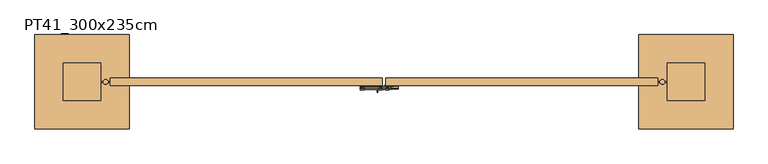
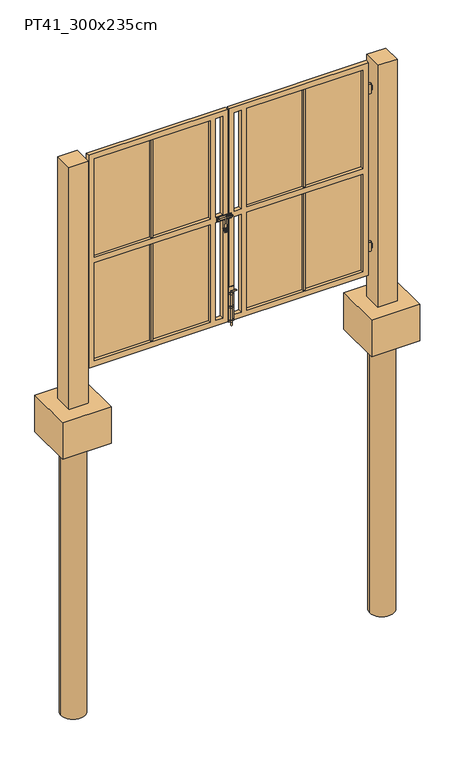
"""IFC4 building model written with IfcOpenShell, lengths in millimetres: door geometry, FDE_PT41_Portão_UsoExterno_ChapaDeAço_2Folhas : PT41_300x235cm."""

from ifc_helpers import new_model, si_unit, point, frame, frame_2d, origin, place, context, project, spatial, polyline, circle_curve, ellipse_curve, trimmed, segment, composite_curve, outline, extrude, source, transform, mapped, element, save
from ifc_brep_helpers import plane_surface, cylinder_surface, revolved_surface, advanced_brep


def pt41_300x235cm_02f68b07(model_context):
    return source(origin(), model_context, "Body", "SolidModel", [
        extrude(outline(composite_curve([segment(polyline([(18.65, -25.0), (18.65, -31.25)]), True, "CONTINUOUS"), segment(trimmed(circle_curve(frame_2d((25.0, -31.25)), 6.35), [point((18.65, -31.25))], [point((31.3345317, -31.6929536))], True, "CARTESIAN"), True, "CONTINUOUS"), segment(polyline([(31.3345317, -31.6929536), (31.3345317, -25.0), (50.0, -25.0), (50.0, -27.0), (33.3382427, -27.0), (33.3382427, -31.6929536)]), True, "CONTINUOUS"), segment(trimmed(circle_curve(frame_2d((25.0, -31.25)), 8.35), [point((33.3382427, -31.6929536))], [point((16.65, -31.25))], False, "CARTESIAN"), True, "CONTINUOUS"), segment(polyline([(16.65, -31.25), (16.65, -27.0), (0.0, -27.0), (0.0, -25.0), (18.65, -25.0)]), True, "CONTINUOUS")], self_intersect=False)), frame((0.0, 0.0, 320.0), z_axis=(0.0, 0.0, 1.0), x_axis=(1.0, 0.0, 0.0)), (0.0, 0.0, 1.0), 20.0),
        extrude(outline(composite_curve([segment(polyline([(18.65, -25.0), (18.65, -31.25)]), True, "CONTINUOUS"), segment(trimmed(circle_curve(frame_2d((25.0, -31.25)), 6.35), [point((18.65, -31.25))], [point((31.3345317, -31.6929536))], True, "CARTESIAN"), True, "CONTINUOUS"), segment(polyline([(31.3345317, -31.6929536), (31.3345317, -25.0), (50.0, -25.0), (50.0, -27.0), (33.3382427, -27.0), (33.3382427, -31.6929536)]), True, "CONTINUOUS"), segment(trimmed(circle_curve(frame_2d((25.0, -31.25)), 8.35), [point((33.3382427, -31.6929536))], [point((16.65, -31.25))], False, "CARTESIAN"), True, "CONTINUOUS"), segment(polyline([(16.65, -31.25), (16.65, -27.0), (0.0, -27.0), (0.0, -25.0), (18.65, -25.0)]), True, "CONTINUOUS")], self_intersect=False)), frame((0.0, 0.0, 170.0), z_axis=(0.0, 0.0, 1.0), x_axis=(1.0, 0.0, 0.0)), (0.0, 0.0, 1.0), 20.0),
        extrude(outline(composite_curve([segment(polyline([(18.65, -25.0), (18.65, -31.25)]), True, "CONTINUOUS"), segment(trimmed(circle_curve(frame_2d((25.0, -31.25)), 6.35), [point((18.65, -31.25))], [point((31.3345317, -31.6929536))], True, "CARTESIAN"), True, "CONTINUOUS"), segment(polyline([(31.3345317, -31.6929536), (31.3345317, -25.0), (50.0, -25.0), (50.0, -27.0), (33.3382427, -27.0), (33.3382427, -31.6929536)]), True, "CONTINUOUS"), segment(trimmed(circle_curve(frame_2d((25.0, -31.25)), 8.35), [point((33.3382427, -31.6929536))], [point((16.65, -31.25))], False, "CARTESIAN"), True, "CONTINUOUS"), segment(polyline([(16.65, -31.25), (16.65, -27.0), (0.0, -27.0), (0.0, -25.0), (18.65, -25.0)]), True, "CONTINUOUS")], self_intersect=False)), frame((0.0, 0.0, 20.0), z_axis=(0.0, 0.0, 1.0), x_axis=(1.0, 0.0, 0.0)), (0.0, 0.0, 1.0), 20.0),
        advanced_brep(
        [(18.65, -31.25, -20.0), (31.35, -31.25, -20.0), (18.65, -31.25, 356.35), (31.35, -31.25, 343.65), (75.0, -31.25, 356.35), (75.0, -31.25, 343.65)],
        [
            (0, 1, circle_curve(frame((25.0, -31.25, -20.0), z_axis=(0.0, 0.0, -1.0), x_axis=(1.0, 0.0, 0.0)), 6.35)),
            (1, 0, circle_curve(frame((25.0, -31.25, -20.0), z_axis=(0.0, 0.0, -1.0), x_axis=(1.0, 0.0, 0.0)), 6.35)),
            (0, 2),
            (2, 3, ellipse_curve(frame((25.0, -31.25, 350.0), z_axis=(-0.707106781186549, 0.0, -0.7071067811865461), x_axis=(0.7071067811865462, 0.0, -0.7071067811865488)), 8.9802561, 6.35)),
            (3, 1),
            (3, 2, ellipse_curve(frame((25.0, -31.25, 350.0), z_axis=(-0.707106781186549, 0.0, -0.7071067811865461), x_axis=(0.7071067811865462, 0.0, -0.7071067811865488)), 8.9802561, 6.35)),
            (4, 5, circle_curve(frame((75.0, -31.25, 350.0), z_axis=(1.0, 0.0, 0.0), x_axis=(0.0, 0.0, -1.0)), 6.35)),
            (5, 4, circle_curve(frame((75.0, -31.25, 350.0), z_axis=(1.0, 0.0, 0.0), x_axis=(0.0, 0.0, -1.0)), 6.35)),
            (2, 4),
            (5, 3),
        ],
        [
            plane_surface(frame((25.0, -31.25, -20.0), z_axis=(0.0, 0.0, -1.0), x_axis=(0.0, -1.0, 0.0))),
            cylinder_surface(frame((25.0, -31.25, -20.0), z_axis=(0.0, 0.0, -1.0), x_axis=(1.0, 0.0, 0.0)), 6.35),
            plane_surface(frame((75.0, -31.25, 350.0), z_axis=(1.0, 0.0, 0.0), x_axis=(0.0, -1.0, 0.0))),
            cylinder_surface(frame((25.0, -31.25, 350.0), z_axis=(-1.0, 0.0, 0.0), x_axis=(0.0, 0.0, -1.0)), 6.35),
        ],
        [
            (0, [[1, 2]]),
            (1, [[-1, 3, 4, 5]]),
            (1, [[-2, -5, 6, -3]]),
            (2, [[7, 8]]),
            (3, [[-4, 9, -8, 10]]),
            (3, [[-6, -10, -7, -9]]),
        ],
    ),
        extrude(outline(polyline([(50.0, -25.0), (0.0, -25.0), (0.0, -20.0), (50.0, -20.0), (50.0, -25.0)])), frame((0.0, 0.0, 20.0), z_axis=(0.0, 0.0, 1.0), x_axis=(1.0, 0.0, 0.0)), (0.0, 0.0, 1.0), 380.0),
        extrude(outline(polyline([(2075.0, 1477.5), (2095.0, 1477.5), (2095.0, 1450.0), (2075.0, 1450.0), (2075.0, 1472.5), (2025.0, 1472.5), (2025.0, 1450.0), (2005.0, 1450.0), (2005.0, 1477.5), (2025.0, 1477.5), (2025.0, 1500.0), (2075.0, 1500.0), (2075.0, 1477.5)])), frame((0.0, -2.5, 0.0), z_axis=(0.0, 1.0, 0.0), x_axis=(0.0, 0.0, 1.0)), (0.0, 0.0, 1.0), 5.0),
        extrude(outline(composite_curve([segment(trimmed(circle_curve(frame_2d((1475.0, 0.0)), 12.7), [point((1487.7, 0.0))], [point((1462.3, 0.0))], False, "CARTESIAN"), True, "CONTINUOUS"), segment(trimmed(circle_curve(frame_2d((1475.0, 0.0)), 12.7), [point((1462.3, 0.0))], [point((1487.7, 0.0))], False, "CARTESIAN"), True, "CONTINUOUS")], self_intersect=False)), frame((0.0, 0.0, 1999.2), z_axis=(0.0, 0.0, 1.0), x_axis=(1.0, 0.0, 0.0)), (0.0, 0.0, 1.0), 101.6),
        extrude(outline(polyline([(345.0, 1477.5), (365.0, 1477.5), (365.0, 1450.0), (345.0, 1450.0), (345.0, 1472.5), (295.0, 1472.5), (295.0, 1450.0), (275.0, 1450.0), (275.0, 1477.5), (295.0, 1477.5), (295.0, 1500.0), (345.0, 1500.0), (345.0, 1477.5)])), frame((0.0, -2.5, 0.0), z_axis=(0.0, 1.0, 0.0), x_axis=(0.0, 0.0, 1.0)), (0.0, 0.0, 1.0), 5.0),
        extrude(outline(composite_curve([segment(trimmed(circle_curve(frame_2d((1475.0, 0.0)), 12.7), [point((1487.7, 0.0))], [point((1462.3, 0.0))], False, "CARTESIAN"), True, "CONTINUOUS"), segment(trimmed(circle_curve(frame_2d((1475.0, 0.0)), 12.7), [point((1462.3, 0.0))], [point((1487.7, 0.0))], False, "CARTESIAN"), True, "CONTINUOUS")], self_intersect=False)), frame((0.0, 0.0, 269.2), z_axis=(0.0, 0.0, 1.0), x_axis=(1.0, 0.0, 0.0)), (0.0, 0.0, 1.0), 101.6),
        extrude(outline(polyline([(2075.0, -1477.5), (2075.0, -1500.0), (2025.0, -1500.0), (2025.0, -1477.5), (2005.0, -1477.5), (2005.0, -1450.0), (2025.0, -1450.0), (2025.0, -1472.5), (2075.0, -1472.5), (2075.0, -1450.0), (2095.0, -1450.0), (2095.0, -1477.5), (2075.0, -1477.5)])), frame((0.0, -2.5, 0.0), z_axis=(0.0, 1.0, 0.0), x_axis=(0.0, 0.0, 1.0)), (0.0, 0.0, 1.0), 5.0),
        extrude(outline(composite_curve([segment(trimmed(circle_curve(frame_2d((-1475.0, 0.0)), 12.7), [point((-1487.7, 0.0))], [point((-1462.3, 0.0))], False, "CARTESIAN"), True, "CONTINUOUS"), segment(trimmed(circle_curve(frame_2d((-1475.0, 0.0)), 12.7), [point((-1462.3, 0.0))], [point((-1487.7, 0.0))], False, "CARTESIAN"), True, "CONTINUOUS")], self_intersect=False)), frame((0.0, 0.0, 1999.2), z_axis=(0.0, 0.0, 1.0), x_axis=(1.0, 0.0, 0.0)), (0.0, 0.0, 1.0), 101.6),
        extrude(outline(polyline([(345.0, -1477.5), (345.0, -1500.0), (295.0, -1500.0), (295.0, -1477.5), (275.0, -1477.5), (275.0, -1450.0), (295.0, -1450.0), (295.0, -1472.5), (345.0, -1472.5), (345.0, -1450.0), (365.0, -1450.0), (365.0, -1477.5), (345.0, -1477.5)])), frame((0.0, -2.5, 0.0), z_axis=(0.0, 1.0, 0.0), x_axis=(0.0, 0.0, 1.0)), (0.0, 0.0, 1.0), 5.0),
        extrude(outline(composite_curve([segment(trimmed(circle_curve(frame_2d((-1475.0, 0.0)), 12.7), [point((-1487.7, 0.0))], [point((-1462.3, 0.0))], False, "CARTESIAN"), True, "CONTINUOUS"), segment(trimmed(circle_curve(frame_2d((-1475.0, 0.0)), 12.7), [point((-1462.3, 0.0))], [point((-1487.7, 0.0))], False, "CARTESIAN"), True, "CONTINUOUS")], self_intersect=False)), frame((0.0, 0.0, 269.2), z_axis=(0.0, 0.0, 1.0), x_axis=(1.0, 0.0, 0.0)), (0.0, 0.0, 1.0), 101.6),
        advanced_brep(
        [(10.0, -34.7972177, 1174.1828756), (10.0, -24.0, 1174.1828756), (10.0, -24.0, 1155.0), (10.0, -26.0, 1155.0), (10.0, -26.0, 1172.1828756), (10.0, -34.7972177, 1172.1828756), (10.0, -34.7972177, 1188.8828756), (10.0, -26.0, 1188.8931626), (10.0, -26.0, 1205.0), (10.0, -24.0, 1205.0), (10.0, -24.0, 1186.8931626), (10.0, -34.8015861, 1186.8931626), (25.0, -34.7994019, 1174.193163), (25.0, -34.8015861, 1186.8931626), (25.0, -24.0, 1186.8931626), (25.0, -24.0, 1205.0), (25.0, -26.0, 1205.0), (25.0, -26.0, 1188.8931626), (25.0, -34.7972177, 1188.8931626), (25.0, -34.7972177, 1172.1828756), (25.0, -26.0, 1172.1828756), (25.0, -26.0, 1155.0), (25.0, -24.0, 1155.0), (25.0, -24.0, 1174.1828756)],
        [
            (0, 1),
            (1, 2),
            (2, 3),
            (3, 4),
            (4, 5),
            (5, 6, circle_curve(frame((10.0, -34.7972177, 1180.5328756), z_axis=(-1.0, 0.0, 0.0), x_axis=(0.0, 0.0, -1.0)), 8.35)),
            (6, 7),
            (7, 8),
            (8, 9),
            (9, 10),
            (10, 11),
            (11, 0, circle_curve(frame((10.0, -34.7994019, 1180.543163), z_axis=(1.0, 0.0, 0.0), x_axis=(0.0, 0.0, -1.0)), 6.35)),
            (12, 13, circle_curve(frame((25.0, -34.7994019, 1180.543163), z_axis=(-1.0, 0.0, 0.0), x_axis=(0.0, 0.0, -1.0)), 6.35)),
            (13, 14),
            (14, 15),
            (15, 16),
            (16, 17),
            (17, 18),
            (18, 19, circle_curve(frame((25.0, -34.7972177, 1180.5328756), z_axis=(1.0, 0.0, 0.0), x_axis=(0.0, 0.0, -1.0)), 8.35)),
            (19, 20),
            (20, 21),
            (21, 22),
            (22, 23),
            (23, 12),
            (12, 0),
            (11, 13),
            (10, 14),
            (9, 15),
            (8, 16),
            (7, 17),
            (6, 18),
            (5, 19),
            (4, 20),
            (3, 21),
            (2, 22),
            (1, 23),
        ],
        [
            plane_surface(frame((10.0, -34.7994019, 1174.193163), z_axis=(-1.0, 0.0, 0.0), x_axis=(0.0, 1.0, 0.0))),
            plane_surface(frame((25.0, -34.7994019, 1174.193163), z_axis=(1.0, 0.0, 0.0), x_axis=(0.0, -1.0, 0.0))),
            revolved_surface(polyline([(10.0, -34.7994019, 1174.1931630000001), (25.0, -34.7994019, 1174.1931630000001)]), (10.0, -34.7994019, 1180.543163), (-1.0, 0.0, 0.0)),
            plane_surface(frame((25.0, -34.8015861, 1186.8931626), z_axis=(0.0, 0.0, -1.0), x_axis=(-1.0, 0.0, 0.0))),
            plane_surface(frame((25.0, -24.0, 1186.8931626), z_axis=(0.0, 1.0, 0.0), x_axis=(-1.0, 0.0, 0.0))),
            plane_surface(frame((25.0, -24.0, 1205.0), z_axis=(0.0, 0.0, 1.0), x_axis=(-1.0, 0.0, 0.0))),
            plane_surface(frame((25.0, -26.0, 1205.0), z_axis=(0.0, -1.0, 0.0), x_axis=(-1.0, 0.0, 0.0))),
            plane_surface(frame((25.0, -26.0, 1188.8931626), z_axis=(0.0, 0.0, 1.0), x_axis=(-1.0, 0.0, 0.0))),
            cylinder_surface(frame((10.0, -34.7972177, 1180.5328756), z_axis=(1.0, 0.0, 0.0), x_axis=(0.0, 0.0, -1.0)), 8.35),
            plane_surface(frame((25.0, -34.7972177, 1172.1828756), z_axis=(0.0, 0.0, -1.0), x_axis=(-1.0, 0.0, 0.0))),
            plane_surface(frame((25.0, -26.0, 1172.1828756), z_axis=(0.0, -1.0, 0.0), x_axis=(-1.0, 0.0, 0.0))),
            plane_surface(frame((25.0, -26.0, 1155.0), z_axis=(0.0, 0.0, -1.0), x_axis=(-1.0, 0.0, 0.0))),
            plane_surface(frame((25.0, -24.0, 1155.0), z_axis=(0.0, 1.0, 0.0), x_axis=(-1.0, 0.0, 0.0))),
            plane_surface(frame((25.0, -24.0, 1174.1828756), z_axis=(0.0, 0.0, 1.0), x_axis=(-1.0, 0.0, 0.0))),
        ],
        [
            (0, [[1, 2, 3, 4, 5, 6, 7, 8, 9, 10, 11, 12]]),
            (1, [[13, 14, 15, 16, 17, 18, 19, 20, 21, 22, 23, 24]]),
            (2, [[-13, 25, -12, 26]]),
            (3, [[-14, -26, -11, 27]]),
            (4, [[-15, -27, -10, 28]]),
            (5, [[-16, -28, -9, 29]]),
            (6, [[-17, -29, -8, 30]]),
            (7, [[-18, -30, -7, 31]]),
            (8, [[-19, -31, -6, 32]]),
            (9, [[-20, -32, -5, 33]]),
            (10, [[-21, -33, -4, 34]]),
            (11, [[-22, -34, -3, 35]]),
            (12, [[-23, -35, -2, 36]]),
            (13, [[-24, -36, -1, -25]]),
        ],
    ),
        advanced_brep(
        [(-40.0, -32.8935961, 1171.339746), (-40.0, -32.8935961, 1117.8785853), (-46.1056497, -32.8935961, 1104.7849773), (-46.1056497, -32.8935961, 1017.9855504), (-23.8943503, -32.8935961, 1017.9855504), (-23.8943503, -32.8935961, 1104.7849773), (-30.0, -32.8935961, 1117.8785853), (-30.0, -32.8935961, 1171.339746), (-31.8164344, -32.8935961, 1174.4859025), (-38.1835656, -32.8935961, 1174.4859025), (-28.8943503, -32.8935961, 1067.3525354), (-28.8943503, -32.8935961, 1032.1450732), (-41.1056497, -32.8935961, 1032.1450732), (-41.1056497, -32.8935961, 1067.3525354), (-30.0, -31.380621, 1171.339746), (-30.0, -31.380621, 1117.8785853), (-23.8943503, -31.380621, 1104.7849773), (-23.8943503, -31.380621, 1017.9855504), (-46.1056497, -31.380621, 1017.9855504), (-46.1056497, -31.380621, 1104.7849773), (-40.0, -31.380621, 1117.8785853), (-40.0, -31.380621, 1171.339746), (-37.7758726, -31.380621, 1175.1920475), (-32.2241274, -31.380621, 1175.1920475), (-28.8943503, -31.380621, 1067.3525354), (-41.1056497, -31.380621, 1067.3525354), (-41.1056497, -31.380621, 1032.1450732), (-28.8943503, -31.380621, 1032.1450732), (34.8207606, -34.7994019, 1186.893163), (34.8207606, -34.7994019, 1174.193163), (-125.0, -34.7994019, 1186.893163), (-125.0, -34.7994019, 1174.193163)],
        [
            (0, 1),
            (1, 2),
            (2, 3),
            (3, 4),
            (4, 5),
            (5, 6),
            (6, 7),
            (7, 8),
            (8, 9),
            (9, 0),
            (10, 11),
            (11, 12),
            (12, 13),
            (13, 10),
            (14, 15),
            (15, 16),
            (16, 17),
            (17, 18),
            (18, 19),
            (19, 20),
            (20, 21),
            (21, 22),
            (22, 23),
            (23, 14),
            (24, 25),
            (25, 26),
            (26, 27),
            (27, 24),
            (0, 21),
            (20, 1),
            (19, 2),
            (18, 3),
            (17, 4),
            (16, 5),
            (15, 6),
            (14, 7),
            (10, 24),
            (27, 11),
            (26, 12),
            (25, 13),
            (28, 29, circle_curve(frame((34.8207606, -34.7994019, 1180.543163), z_axis=(1.0, 0.0, 0.0), x_axis=(0.0, 0.0, -1.0)), 6.35)),
            (29, 28, circle_curve(frame((34.8207606, -34.7994019, 1180.543163), z_axis=(1.0, 0.0, 0.0), x_axis=(0.0, 0.0, -1.0)), 6.35)),
            (30, 31, circle_curve(frame((-125.0, -34.7994019, 1180.543163), z_axis=(-1.0, 0.0, 0.0), x_axis=(0.0, 0.0, -1.0)), 6.35)),
            (31, 30, circle_curve(frame((-125.0, -34.7994019, 1180.543163), z_axis=(-1.0, 0.0, 0.0), x_axis=(0.0, 0.0, -1.0)), 6.35)),
            (28, 30),
            (31, 29),
            (8, 23, ellipse_curve(frame((-35.3135953, -34.7994019, 1180.543163), z_axis=(0.8660254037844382, 0.0, 0.5000000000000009), x_axis=(0.5000000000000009, 0.0, -0.8660254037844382)), 7.3323484, 6.35)),
            (22, 9, ellipse_curve(frame((-34.6864047, -34.7994019, 1180.543163), z_axis=(-0.8660254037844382, 0.0, 0.500000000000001), x_axis=(0.5000000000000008, 0.0, 0.8660254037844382)), 7.3323484, 6.35)),
        ],
        [
            plane_surface(frame((-40.0, -32.8935961, 1175.0), z_axis=(0.0, -1.0, 0.0), x_axis=(0.0, 0.0, -1.0))),
            plane_surface(frame((-40.0, -31.380621, 1175.0), z_axis=(0.0, 1.0, 0.0), x_axis=(0.0, 0.0, 1.0))),
            plane_surface(frame((-40.0, -32.8935961, 1171.339746), z_axis=(-1.0, 0.0, 0.0), x_axis=(0.0, 1.0, 0.0))),
            plane_surface(frame((-40.0, -32.8935961, 1117.8785853), z_axis=(-0.9063077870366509, 0.0, 0.4226182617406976), x_axis=(0.0, 1.0, 0.0))),
            plane_surface(frame((-46.1056497, -32.8935961, 1104.7849773), z_axis=(-1.0, 0.0, 0.0), x_axis=(0.0, 1.0, 0.0))),
            plane_surface(frame((-46.1056497, -32.8935961, 1017.9855504), z_axis=(0.0, 0.0, -1.0), x_axis=(0.0, 1.0, 0.0))),
            plane_surface(frame((-23.8943503, -32.8935961, 1017.9855504), z_axis=(1.0, 0.0, 0.0), x_axis=(0.0, 1.0, 0.0))),
            plane_surface(frame((-23.8943503, -32.8935961, 1104.7849773), z_axis=(0.9063077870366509, 0.0, 0.42261826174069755), x_axis=(0.0, 1.0, 0.0))),
            plane_surface(frame((-30.0, -32.8935961, 1117.8785853), z_axis=(1.0, 0.0, 0.0), x_axis=(0.0, 1.0, 0.0))),
            plane_surface(frame((-28.8943503, -32.8935961, 1067.3525354), z_axis=(-1.0, 0.0, 0.0), x_axis=(0.0, 1.0, 0.0))),
            plane_surface(frame((-28.8943503, -32.8935961, 1032.1450732), z_axis=(0.0, 0.0, 1.0), x_axis=(0.0, 1.0, 0.0))),
            plane_surface(frame((-41.1056497, -32.8935961, 1032.1450732), z_axis=(1.0, 0.0, 0.0), x_axis=(0.0, 1.0, 0.0))),
            plane_surface(frame((-41.1056497, -32.8935961, 1067.3525354), z_axis=(0.0, 0.0, -1.0), x_axis=(0.0, 1.0, 0.0))),
            plane_surface(frame((34.8207606, -34.7994019, 1174.193163), z_axis=(1.0, 0.0, 0.0), x_axis=(0.0, 1.0, 0.0))),
            plane_surface(frame((-125.0, -34.7994019, 1174.193163), z_axis=(-1.0, 0.0, 0.0), x_axis=(0.0, -1.0, 0.0))),
            cylinder_surface(frame((-125.0, -34.7994019, 1180.543163), z_axis=(1.0, 0.0, 0.0), x_axis=(0.0, 0.0, -1.0)), 6.35),
            plane_surface(frame((-30.0, -32.8935961, 1171.339746), z_axis=(0.8660254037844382, 0.0, 0.5000000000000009), x_axis=(0.0, 1.0, 0.0))),
            plane_surface(frame((-35.0, -32.8935961, 1180.0), z_axis=(-0.8660254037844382, 0.0, 0.500000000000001), x_axis=(0.0, 1.0, 0.0))),
        ],
        [
            (0, [[1, 2, 3, 4, 5, 6, 7, 8, 9, 10], [11, 12, 13, 14]]),
            (1, [[15, 16, 17, 18, 19, 20, 21, 22, 23, 24], [25, 26, 27, 28]]),
            (2, [[-1, 29, -21, 30]]),
            (3, [[-2, -30, -20, 31]]),
            (4, [[-3, -31, -19, 32]]),
            (5, [[-4, -32, -18, 33]]),
            (6, [[-5, -33, -17, 34]]),
            (7, [[-6, -34, -16, 35]]),
            (8, [[-7, -35, -15, 36]]),
            (9, [[-11, 37, -28, 38]]),
            (10, [[-12, -38, -27, 39]]),
            (11, [[-13, -39, -26, 40]]),
            (12, [[-14, -40, -25, -37]]),
            (13, [[41, 42]]),
            (14, [[43, 44]]),
            (15, [[-41, 45, -44, 46]]),
            (15, [[-42, -46, -43, -45], [-9, 47, -23, 48]]),
            (16, [[-36, -24, -47, -8]]),
            (17, [[-29, -10, -48, -22]]),
        ],
    ),
        extrude(outline(polyline([(-8.3641027, -24.0), (-58.3641027, -24.0), (-58.3641027, -20.0), (-8.3641027, -20.0), (-8.3641027, -24.0)])), frame((0.0, 0.0, 1035.0), z_axis=(0.0, 0.0, 1.0), x_axis=(1.0, 0.0, 0.0)), (0.0, 0.0, 1.0), 30.0),
        advanced_brep(
        [(-25.0, -34.7972177, 1172.1828756), (-25.0, -34.7972177, 1188.8828756), (-25.0, -26.0, 1188.8931626), (-25.0, -26.0, 1205.0), (-25.0, -24.0, 1205.0), (-25.0, -24.0, 1186.8931626), (-25.0, -34.8015861, 1186.8931626), (-25.0, -34.7994019, 1174.193163), (-25.0, -24.0, 1174.1828756), (-25.0, -24.0, 1155.0), (-25.0, -26.0, 1155.0), (-25.0, -26.0, 1172.1828756), (-10.0, -34.7972177, 1172.1828756), (-10.0, -26.0, 1172.1828756), (-10.0, -26.0, 1155.0), (-10.0, -24.0, 1155.0), (-10.0, -24.0, 1174.1828756), (-10.0, -34.7972177, 1174.1828756), (-10.0, -34.8015861, 1186.8931626), (-10.0, -24.0, 1186.8931626), (-10.0, -24.0, 1205.0), (-10.0, -26.0, 1205.0), (-10.0, -26.0, 1188.8931626), (-10.0, -34.7972177, 1188.8931626)],
        [
            (0, 1, circle_curve(frame((-25.0, -34.7972177, 1180.5328756), z_axis=(-1.0, 0.0, 0.0), x_axis=(0.0, 0.0, -1.0)), 8.35)),
            (1, 2),
            (2, 3),
            (3, 4),
            (4, 5),
            (5, 6),
            (6, 7, circle_curve(frame((-25.0, -34.7994019, 1180.543163), z_axis=(1.0, 0.0, 0.0), x_axis=(0.0, 0.0, -1.0)), 6.35)),
            (7, 8),
            (8, 9),
            (9, 10),
            (10, 11),
            (11, 0),
            (12, 13),
            (13, 14),
            (14, 15),
            (15, 16),
            (16, 17),
            (17, 18, circle_curve(frame((-10.0, -34.7994019, 1180.543163), z_axis=(-1.0, 0.0, 0.0), x_axis=(0.0, 0.0, -1.0)), 6.35)),
            (18, 19),
            (19, 20),
            (20, 21),
            (21, 22),
            (22, 23),
            (23, 12, circle_curve(frame((-10.0, -34.7972177, 1180.5328756), z_axis=(1.0, 0.0, 0.0), x_axis=(0.0, 0.0, -1.0)), 8.35)),
            (12, 0),
            (11, 13),
            (10, 14),
            (9, 15),
            (8, 16),
            (7, 17),
            (6, 18),
            (5, 19),
            (4, 20),
            (3, 21),
            (2, 22),
            (1, 23),
        ],
        [
            plane_surface(frame((-25.0, -34.7972177, 1172.1828756), z_axis=(-1.0, 0.0, 0.0), x_axis=(0.0, -1.0, 0.0))),
            plane_surface(frame((-10.0, -34.7972177, 1172.1828756), z_axis=(1.0, 0.0, 0.0), x_axis=(0.0, 1.0, 0.0))),
            plane_surface(frame((-10.0, -34.7972177, 1172.1828756), z_axis=(0.0, 0.0, -1.0), x_axis=(-1.0, 0.0, 0.0))),
            plane_surface(frame((-10.0, -26.0, 1172.1828756), z_axis=(0.0, -1.0, 0.0), x_axis=(-1.0, 0.0, 0.0))),
            plane_surface(frame((-10.0, -26.0, 1155.0), z_axis=(0.0, 0.0, -1.0), x_axis=(-1.0, 0.0, 0.0))),
            plane_surface(frame((-10.0, -24.0, 1155.0), z_axis=(0.0, 1.0, 0.0), x_axis=(-1.0, 0.0, 0.0))),
            plane_surface(frame((-10.0, -24.0, 1174.1828756), z_axis=(0.0, 0.0, 1.0), x_axis=(-1.0, 0.0, 0.0))),
            revolved_surface(polyline([(-25.0, -34.7994019, 1174.1931630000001), (-10.0, -34.7994019, 1174.1931630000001)]), (-25.0, -34.7994019, 1180.543163), (-1.0, 0.0, 0.0)),
            plane_surface(frame((-10.0, -34.8015861, 1186.8931626), z_axis=(0.0, 0.0, -1.0), x_axis=(-1.0, 0.0, 0.0))),
            plane_surface(frame((-10.0, -24.0, 1186.8931626), z_axis=(0.0, 1.0, 0.0), x_axis=(-1.0, 0.0, 0.0))),
            plane_surface(frame((-10.0, -24.0, 1205.0), z_axis=(0.0, 0.0, 1.0), x_axis=(-1.0, 0.0, 0.0))),
            plane_surface(frame((-10.0, -26.0, 1205.0), z_axis=(0.0, -1.0, 0.0), x_axis=(-1.0, 0.0, 0.0))),
            plane_surface(frame((-10.0, -26.0, 1188.8931626), z_axis=(0.0, 0.0, 1.0), x_axis=(-1.0, 0.0, 0.0))),
            cylinder_surface(frame((-25.0, -34.7972177, 1180.5328756), z_axis=(1.0, 0.0, 0.0), x_axis=(0.0, 0.0, -1.0)), 8.35),
        ],
        [
            (0, [[1, 2, 3, 4, 5, 6, 7, 8, 9, 10, 11, 12]]),
            (1, [[13, 14, 15, 16, 17, 18, 19, 20, 21, 22, 23, 24]]),
            (2, [[-13, 25, -12, 26]]),
            (3, [[-14, -26, -11, 27]]),
            (4, [[-15, -27, -10, 28]]),
            (5, [[-16, -28, -9, 29]]),
            (6, [[-17, -29, -8, 30]]),
            (7, [[-18, -30, -7, 31]]),
            (8, [[-19, -31, -6, 32]]),
            (9, [[-20, -32, -5, 33]]),
            (10, [[-21, -33, -4, 34]]),
            (11, [[-22, -34, -3, 35]]),
            (12, [[-23, -35, -2, 36]]),
            (13, [[-24, -36, -1, -25]]),
        ],
    ),
        advanced_brep(
        [(-125.0, -34.7972177, 1174.1828756), (-125.0, -24.0, 1174.1828756), (-125.0, -24.0, 1155.0), (-125.0, -26.0, 1155.0), (-125.0, -26.0, 1172.1828756), (-125.0, -34.7972177, 1172.1828756), (-125.0, -34.7972177, 1188.8828756), (-125.0, -26.0, 1188.8931626), (-125.0, -26.0, 1205.0), (-125.0, -24.0, 1205.0), (-125.0, -24.0, 1186.8931626), (-125.0, -34.7972177, 1186.8931626), (-105.0, -34.7972177, 1174.1828756), (-105.0, -34.7972177, 1186.8828756), (-105.0, -24.0, 1186.8931626), (-105.0, -24.0, 1205.0), (-105.0, -26.0, 1205.0), (-105.0, -26.0, 1188.8931626), (-105.0, -34.7972177, 1188.8931626), (-105.0, -34.7972177, 1172.1828756), (-105.0, -26.0, 1172.1828756), (-105.0, -26.0, 1155.0), (-105.0, -24.0, 1155.0), (-105.0, -24.0, 1174.1828756)],
        [
            (0, 1),
            (1, 2),
            (2, 3),
            (3, 4),
            (4, 5),
            (5, 6, circle_curve(frame((-125.0, -34.7972177, 1180.5328756), z_axis=(-1.0, 0.0, 0.0), x_axis=(0.0, 0.0, -1.0)), 8.35)),
            (6, 7),
            (7, 8),
            (8, 9),
            (9, 10),
            (10, 11),
            (11, 0, circle_curve(frame((-125.0, -34.7972177, 1180.5328756), z_axis=(1.0, 0.0, 0.0), x_axis=(0.0, 0.0, -1.0)), 6.35)),
            (12, 13, circle_curve(frame((-105.0, -34.7972177, 1180.5328756), z_axis=(-1.0, 0.0, 0.0), x_axis=(0.0, 0.0, -1.0)), 6.35)),
            (13, 14),
            (14, 15),
            (15, 16),
            (16, 17),
            (17, 18),
            (18, 19, circle_curve(frame((-105.0, -34.7972177, 1180.5328756), z_axis=(1.0, 0.0, 0.0), x_axis=(0.0, 0.0, -1.0)), 8.35)),
            (19, 20),
            (20, 21),
            (21, 22),
            (22, 23),
            (23, 12),
            (12, 0),
            (11, 13),
            (15, 9),
            (8, 16),
            (7, 17),
            (20, 4),
            (3, 21),
            (2, 22),
            (10, 14),
            (6, 18),
            (5, 19),
            (1, 23),
        ],
        [
            plane_surface(frame((-125.0, -34.7972177, 1174.1828756), z_axis=(-1.0, 0.0, 0.0), x_axis=(0.0, 1.0, 0.0))),
            plane_surface(frame((-105.0, -34.7972177, 1174.1828756), z_axis=(1.0, 0.0, 0.0), x_axis=(0.0, -1.0, 0.0))),
            revolved_surface(polyline([(-125.0, -34.7972177, 1174.1828756), (-105.0, -34.7972177, 1174.1828756)]), (-125.0, -34.7972177, 1180.5328756), (-1.0, 0.0, 0.0)),
            plane_surface(frame((-105.0, -24.0, 1205.0), z_axis=(0.0, 0.0, 1.0), x_axis=(-1.0, 0.0, 0.0))),
            plane_surface(frame((-105.0, -26.0, 1205.0), z_axis=(0.0, -1.0, 0.0), x_axis=(-1.0, 0.0, 0.0))),
            plane_surface(frame((-105.0, -26.0, 1172.1828756), z_axis=(0.0, -1.0, 0.0), x_axis=(-1.0, 0.0, 0.0))),
            plane_surface(frame((-105.0, -26.0, 1155.0), z_axis=(0.0, 0.0, -1.0), x_axis=(-1.0, 0.0, 0.0))),
            plane_surface(frame((-105.0, -34.7972177, 1186.8931626), z_axis=(0.0, 0.0, -1.0), x_axis=(-1.0, 0.0, 0.0))),
            plane_surface(frame((-105.0, -24.0, 1186.8931626), z_axis=(0.0, 1.0, 0.0), x_axis=(-1.0, 0.0, 0.0))),
            plane_surface(frame((-105.0, -26.0, 1188.8931626), z_axis=(0.0, 0.0, 1.0), x_axis=(-1.0, 0.0, 0.0))),
            cylinder_surface(frame((-125.0, -34.7972177, 1180.5328756), z_axis=(1.0, 0.0, 0.0), x_axis=(0.0, 0.0, -1.0)), 8.35),
            plane_surface(frame((-105.0, -34.7972177, 1172.1828756), z_axis=(0.0, 0.0, -1.0), x_axis=(-1.0, 0.0, 0.0))),
            plane_surface(frame((-105.0, -24.0, 1155.0), z_axis=(0.0, 1.0, 0.0), x_axis=(-1.0, 0.0, 0.0))),
            plane_surface(frame((-105.0, -24.0, 1174.1828756), z_axis=(0.0, 0.0, 1.0), x_axis=(-1.0, 0.0, 0.0))),
        ],
        [
            (0, [[1, 2, 3, 4, 5, 6, 7, 8, 9, 10, 11, 12]]),
            (1, [[13, 14, 15, 16, 17, 18, 19, 20, 21, 22, 23, 24]]),
            (2, [[-13, 25, -12, 26]]),
            (3, [[-16, 27, -9, 28]]),
            (4, [[-17, -28, -8, 29]]),
            (5, [[-21, 30, -4, 31]]),
            (6, [[-22, -31, -3, 32]]),
            (7, [[-14, -26, -11, 33]]),
            (8, [[-15, -33, -10, -27]]),
            (9, [[-18, -29, -7, 34]]),
            (10, [[-19, -34, -6, 35]]),
            (11, [[-20, -35, -5, -30]]),
            (12, [[-23, -32, -2, 36]]),
            (13, [[-24, -36, -1, -25]]),
        ],
    ),
        extrude(outline(polyline([(-10.0, -24.0), (-125.0, -24.0), (-125.0, -20.0), (-10.0, -20.0), (-10.0, -24.0)])), frame((0.0, 0.0, 1155.0), z_axis=(0.0, 0.0, 1.0), x_axis=(1.0, 0.0, 0.0)), (0.0, 0.0, 1.0), 50.0),
        extrude(outline(polyline([(-55.6666689, 1036.4597108), (-55.6666689, 1063.7609972), (-24.0, 1063.7609972), (-24.0, 1036.4597108), (-55.6666689, 1036.4597108)]), holes=[composite_curve([segment(trimmed(circle_curve(frame_2d((-43.2209778, 1050.4403392)), 9.0), [point((-43.2209778, 1059.4403392))], [point((-43.2209778, 1041.4403392))], True, "CARTESIAN"), True, "CONTINUOUS"), segment(trimmed(circle_curve(frame_2d((-43.2209778, 1050.4403392)), 9.0), [point((-43.2209778, 1041.4403392))], [point((-43.2209778, 1059.4403392))], True, "CARTESIAN"), True, "CONTINUOUS")], self_intersect=False)]), frame((-36.6056497, 0.0, 0.0), z_axis=(1.0, 0.0, 0.0), x_axis=(0.0, 1.0, 0.0)), (0.0, 0.0, 1.0), 3.2112994),
        extrude(outline(polyline([(-1500.0, 100.0), (-1500.0, -100.0), (-1700.0, -100.0), (-1700.0, 100.0), (-1500.0, 100.0)])), frame((0.0, 0.0, -300.0), z_axis=(0.0, 0.0, 1.0), x_axis=(1.0, 0.0, 0.0)), (0.0, 0.0, 1.0), 2650.0),
        extrude(outline(polyline([(1700.0, 100.0), (1700.0, -100.0), (1500.0, -100.0), (1500.0, 100.0), (1700.0, 100.0)])), frame((0.0, 0.0, -300.0), z_axis=(0.0, 0.0, 1.0), x_axis=(1.0, 0.0, 0.0)), (0.0, 0.0, 1.0), 2650.0),
        extrude(outline(polyline([(800.0, -10.0), (780.0, -10.0), (780.0, 10.0), (800.0, 10.0), (800.0, -10.0)])), frame((0.0, 0.0, 80.0), z_axis=(0.0, 0.0, 1.0), x_axis=(1.0, 0.0, 0.0)), (0.0, 0.0, 1.0), 1070.0),
        extrude(outline(polyline([(800.0, -10.0), (780.0, -10.0), (780.0, 10.0), (800.0, 10.0), (800.0, -10.0)])), frame((0.0, 0.0, 1210.0), z_axis=(0.0, 0.0, 1.0), x_axis=(1.0, 0.0, 0.0)), (0.0, 0.0, 1.0), 1080.0),
        extrude(outline(polyline([(2350.0, 8.0), (20.0, 8.0), (20.0, 1450.0), (2350.0, 1450.0), (2350.0, 8.0)]), holes=[polyline([(1210.0, 60.0), (2290.0, 60.0), (2290.0, 130.0), (1210.0, 130.0), (1210.0, 60.0)]), polyline([(80.0, 130.0), (80.0, 60.0), (1150.0, 60.0), (1150.0, 130.0), (80.0, 130.0)]), polyline([(1150.0, 1390.0), (80.0, 1390.0), (80.0, 190.0), (1150.0, 190.0), (1150.0, 1390.0)]), polyline([(2290.0, 190.0), (2290.0, 1390.0), (1210.0, 1390.0), (1210.0, 190.0), (2290.0, 190.0)])]), frame((0.0, -20.0, 0.0), z_axis=(0.0, 1.0, 0.0), x_axis=(0.0, 0.0, 1.0)), (0.0, 0.0, 1.0), 40.0),
        extrude(outline(polyline([(-780.0, -10.0), (-800.0, -10.0), (-800.0, 10.0), (-780.0, 10.0), (-780.0, -10.0)])), frame((0.0, 0.0, 80.0), z_axis=(0.0, 0.0, 1.0), x_axis=(1.0, 0.0, 0.0)), (0.0, 0.0, 1.0), 1070.0),
        extrude(outline(polyline([(-780.0, -10.0), (-800.0, -10.0), (-800.0, 10.0), (-780.0, 10.0), (-780.0, -10.0)])), frame((0.0, 0.0, 1210.0), z_axis=(0.0, 0.0, 1.0), x_axis=(1.0, 0.0, 0.0)), (0.0, 0.0, 1.0), 1080.0),
        extrude(outline(polyline([(2350.0, -8.0), (2350.0, -1450.0), (20.0, -1450.0), (20.0, -8.0), (2350.0, -8.0)]), holes=[polyline([(2290.0, -190.0), (1210.0, -190.0), (1210.0, -1390.0), (2290.0, -1390.0), (2290.0, -190.0)]), polyline([(1150.0, -1390.0), (1150.0, -190.0), (80.0, -190.0), (80.0, -1390.0), (1150.0, -1390.0)]), polyline([(1210.0, -60.0), (1210.0, -130.0), (2290.0, -130.0), (2290.0, -60.0), (1210.0, -60.0)]), polyline([(80.0, -130.0), (1150.0, -130.0), (1150.0, -60.0), (80.0, -60.0), (80.0, -130.0)])]), frame((0.0, -20.0, 0.0), z_axis=(0.0, 1.0, 0.0), x_axis=(0.0, 0.0, 1.0)), (0.0, 0.0, 1.0), 40.0),
        extrude(outline(polyline([(-1350.0, 250.0), (-1350.0, -250.0), (-1850.0, -250.0), (-1850.0, 250.0), (-1350.0, 250.0)])), frame((0.0, 0.0, -700.0), z_axis=(0.0, 0.0, 1.0), x_axis=(1.0, 0.0, 0.0)), (0.0, 0.0, 1.0), 400.0),
        extrude(outline(polyline([(1850.0, 250.0), (1850.0, -250.0), (1350.0, -250.0), (1350.0, 250.0), (1850.0, 250.0)])), frame((0.0, 0.0, -700.0), z_axis=(0.0, 0.0, 1.0), x_axis=(1.0, 0.0, 0.0)), (0.0, 0.0, 1.0), 400.0),
        extrude(outline(composite_curve([segment(trimmed(circle_curve(frame_2d((1600.0, 0.0)), 125.0), [point((1475.0, 0.0))], [point((1725.0, 0.0))], False, "CARTESIAN"), True, "CONTINUOUS"), segment(trimmed(circle_curve(frame_2d((1600.0, 0.0)), 125.0), [point((1725.0, 0.0))], [point((1475.0, 0.0))], False, "CARTESIAN"), True, "CONTINUOUS")], self_intersect=False)), frame((0.0, 0.0, -3700.0), z_axis=(0.0, 0.0, 1.0), x_axis=(1.0, 0.0, 0.0)), (0.0, 0.0, 1.0), 3000.0),
        extrude(outline(composite_curve([segment(trimmed(circle_curve(frame_2d((-1600.0, 0.0)), 125.0), [point((-1725.0, 0.0))], [point((-1475.0, 0.0))], False, "CARTESIAN"), True, "CONTINUOUS"), segment(trimmed(circle_curve(frame_2d((-1600.0, 0.0)), 125.0), [point((-1475.0, 0.0))], [point((-1725.0, 0.0))], False, "CARTESIAN"), True, "CONTINUOUS")], self_intersect=False)), frame((0.0, 0.0, -3700.0), z_axis=(0.0, 0.0, 1.0), x_axis=(1.0, 0.0, 0.0)), (0.0, 0.0, 1.0), 3000.0),
        extrude(outline(polyline([(1390.0, 10.0), (190.0, 10.0), (190.0, 20.0), (1390.0, 20.0), (1390.0, 10.0)])), frame((0.0, 0.0, 1210.0), z_axis=(0.0, 0.0, 1.0), x_axis=(1.0, 0.0, 0.0)), (0.0, 0.0, 1.0), 1080.0),
        extrude(outline(polyline([(1390.0, 10.0), (190.0, 10.0), (190.0, 20.0), (1390.0, 20.0), (1390.0, 10.0)])), frame((0.0, 0.0, 80.0), z_axis=(0.0, 0.0, 1.0), x_axis=(1.0, 0.0, 0.0)), (0.0, 0.0, 1.0), 1070.0),
        extrude(outline(polyline([(-190.0, 10.0), (-1390.0, 10.0), (-1390.0, 20.0), (-190.0, 20.0), (-190.0, 10.0)])), frame((0.0, 0.0, 1210.0), z_axis=(0.0, 0.0, 1.0), x_axis=(1.0, 0.0, 0.0)), (0.0, 0.0, 1.0), 1080.0),
        extrude(outline(polyline([(-190.0, 10.0), (-1390.0, 10.0), (-1390.0, 20.0), (-190.0, 20.0), (-190.0, 10.0)])), frame((0.0, 0.0, 80.0), z_axis=(0.0, 0.0, 1.0), x_axis=(1.0, 0.0, 0.0)), (0.0, 0.0, 1.0), 1070.0),
    ])


if __name__ == "__main__":
    model = new_model("IFC4")
    model_context = context("Model", 3, world=origin())
    ifc_project = project(units=[si_unit("LENGTHUNIT", "METRE", prefix="MILLI")], contexts=[model_context])
    site = spatial("IfcSite", under=ifc_project)
    building = spatial("IfcBuilding", under=site)
    placement = place(None, origin())
    pt41_300x235cm_shape = pt41_300x235cm_02f68b07(model_context)
    element("IfcDoor", 1, ObjectType="FDE_PT41_Portão_UsoExterno_ChapaDeAço_2Folhas : PT41_300x235cm", at=placement, inside=building, context=model_context, shape_type="MappedRepresentation", body=[
        mapped(pt41_300x235cm_shape, transform((0.0, 0.0, 0.0), x_axis=(1.0, 0.0, 0.0), y_axis=(0.0, 1.0, 0.0), z_axis=(0.0, 0.0, 1.0))),
    ])
    save(model, "model.ifc")
